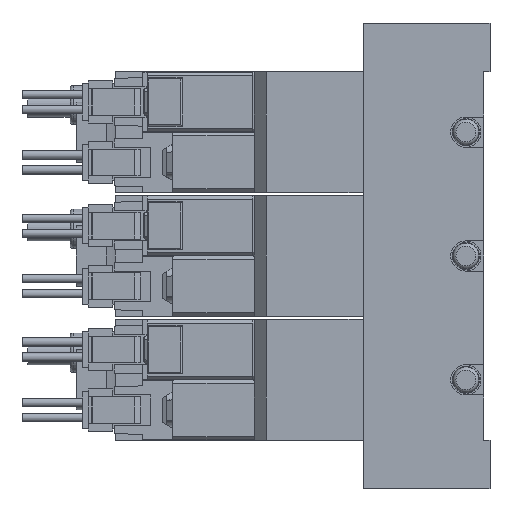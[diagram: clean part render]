
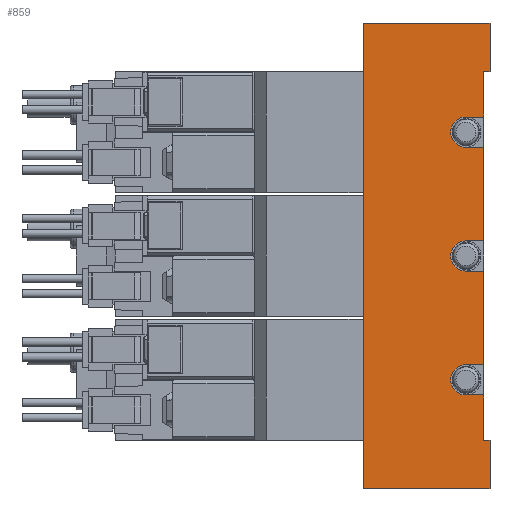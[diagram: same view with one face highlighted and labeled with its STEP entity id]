
A CAD part, left-side view. The second image highlights one B-rep face of the part: STEP entity #859.
In plain terms, the highlighted planar face has unit normal (-1, 0, 0) as drawn and (1, 0, 0) by its records, which use the part's own axes.
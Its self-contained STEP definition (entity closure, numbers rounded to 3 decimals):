
#859=ADVANCED_FACE('',(#1902),#1903,.F.);
#1902=FACE_OUTER_BOUND('',#2953,.T.);
#1903=PLANE('',#2954);
#2953=EDGE_LOOP('',(#6621,#6622,#6623,#6624,#6625,#6626,#6627,#6628,#6629,#6630,#6631,#6632,#6633,#6634,#6635,#6636,#6637,#6638,#6639,#6640));
#2954=AXIS2_PLACEMENT_3D('',#6641,#6642,#6643);
#6621=ORIENTED_EDGE('',*,*,#7823,.T.);
#6622=ORIENTED_EDGE('',*,*,#7804,.T.);
#6623=ORIENTED_EDGE('',*,*,#7826,.F.);
#6624=ORIENTED_EDGE('',*,*,#7795,.F.);
#6625=ORIENTED_EDGE('',*,*,#7779,.T.);
#6626=ORIENTED_EDGE('',*,*,#7732,.T.);
#6627=ORIENTED_EDGE('',*,*,#7818,.T.);
#6628=ORIENTED_EDGE('',*,*,#7752,.F.);
#6629=ORIENTED_EDGE('',*,*,#7709,.F.);
#6630=ORIENTED_EDGE('',*,*,#7801,.F.);
#6631=ORIENTED_EDGE('',*,*,#7816,.T.);
#6632=ORIENTED_EDGE('',*,*,#7831,.F.);
#6633=ORIENTED_EDGE('',*,*,#7749,.F.);
#6634=ORIENTED_EDGE('',*,*,#7832,.F.);
#6635=ORIENTED_EDGE('',*,*,#7812,.T.);
#6636=ORIENTED_EDGE('',*,*,#7797,.F.);
#6637=ORIENTED_EDGE('',*,*,#7703,.F.);
#6638=ORIENTED_EDGE('',*,*,#7715,.F.);
#6639=ORIENTED_EDGE('',*,*,#7810,.T.);
#6640=ORIENTED_EDGE('',*,*,#7830,.T.);
#6641=CARTESIAN_POINT('',(17.5,1.0,38.5));
#6642=DIRECTION('',(-1.0,0.0,0.0));
#6643=DIRECTION('',(0.0,0.0,1.0));
#7703=EDGE_CURVE('',#9550,#9552,#9553,.T.);
#7709=EDGE_CURVE('',#9562,#9564,#9565,.T.);
#7715=EDGE_CURVE('',#9574,#9550,#9575,.T.);
#7732=EDGE_CURVE('',#9608,#9605,#9609,.T.);
#7749=EDGE_CURVE('',#9637,#9639,#9640,.T.);
#7752=EDGE_CURVE('',#9564,#9644,#9645,.T.);
#7779=EDGE_CURVE('',#9691,#9608,#9692,.T.);
#7795=EDGE_CURVE('',#9691,#9717,#9718,.T.);
#7797=EDGE_CURVE('',#9552,#9720,#9721,.T.);
#7801=EDGE_CURVE('',#9727,#9562,#9728,.T.);
#7804=EDGE_CURVE('',#9732,#9733,#9734,.T.);
#7810=EDGE_CURVE('',#9574,#9741,#9743,.T.);
#7812=EDGE_CURVE('',#9745,#9720,#9746,.T.);
#7816=EDGE_CURVE('',#9727,#9751,#9753,.T.);
#7818=EDGE_CURVE('',#9605,#9644,#9755,.T.);
#7823=EDGE_CURVE('',#9763,#9732,#9764,.T.);
#7826=EDGE_CURVE('',#9717,#9733,#9768,.T.);
#7830=EDGE_CURVE('',#9741,#9763,#9772,.T.);
#7831=EDGE_CURVE('',#9639,#9751,#9773,.T.);
#7832=EDGE_CURVE('',#9745,#9637,#9774,.T.);
#9550=VERTEX_POINT('',#12582);
#9552=VERTEX_POINT('',#12585);
#9553=CIRCLE('',#12586,2.5);
#9562=VERTEX_POINT('',#12596);
#9564=VERTEX_POINT('',#12599);
#9565=CIRCLE('',#12600,2.5);
#9574=VERTEX_POINT('',#12610);
#9575=LINE('',#12611,#12612);
#9605=VERTEX_POINT('',#12733);
#9608=VERTEX_POINT('',#12737);
#9609=LINE('',#12738,#12739);
#9637=VERTEX_POINT('',#12778);
#9639=VERTEX_POINT('',#12781);
#9640=CIRCLE('',#12782,2.5);
#9644=VERTEX_POINT('',#12787);
#9645=LINE('',#12788,#12789);
#9691=VERTEX_POINT('',#12845);
#9692=LINE('',#12846,#12847);
#9717=VERTEX_POINT('',#12876);
#9718=LINE('',#12877,#12878);
#9720=VERTEX_POINT('',#12881);
#9721=LINE('',#12882,#12883);
#9727=VERTEX_POINT('',#12892);
#9728=LINE('',#12893,#12894);
#9732=VERTEX_POINT('',#12900);
#9733=VERTEX_POINT('',#12901);
#9734=LINE('',#12902,#12903);
#9741=VERTEX_POINT('',#12913);
#9743=LINE('',#12916,#12917);
#9745=VERTEX_POINT('',#12920);
#9746=LINE('',#12921,#12922);
#9751=VERTEX_POINT('',#12929);
#9753=LINE('',#12932,#12933);
#9755=LINE('',#12936,#12937);
#9763=VERTEX_POINT('',#12945);
#9764=LINE('',#12946,#12947);
#9768=LINE('',#12953,#12954);
#9772=LINE('',#12961,#12962);
#9773=LINE('',#12963,#12964);
#9774=LINE('',#12965,#12966);
#12582=CARTESIAN_POINT('',(17.5,4.0,-23.0));
#12585=CARTESIAN_POINT('',(17.5,4.0,-18.0));
#12586=AXIS2_PLACEMENT_3D('',#14230,#14231,#14232);
#12596=CARTESIAN_POINT('',(17.5,4.0,18.0));
#12599=CARTESIAN_POINT('',(17.5,4.0,23.0));
#12600=AXIS2_PLACEMENT_3D('',#14244,#14245,#14246);
#12610=CARTESIAN_POINT('',(17.5,1.0,-23.0));
#12611=CARTESIAN_POINT('',(17.5,1.0,-23.0));
#12612=VECTOR('',#14260,1.0);
#12733=CARTESIAN_POINT('',(17.5,1.0,30.5));
#12737=CARTESIAN_POINT('',(17.5,0.0,30.5));
#12738=CARTESIAN_POINT('',(17.5,0.0,30.5));
#12739=VECTOR('',#14295,1.0);
#12778=CARTESIAN_POINT('',(17.5,4.0,-2.5));
#12781=CARTESIAN_POINT('',(17.5,4.0,2.5));
#12782=AXIS2_PLACEMENT_3D('',#14317,#14318,#14319);
#12787=CARTESIAN_POINT('',(17.5,1.0,23.0));
#12788=CARTESIAN_POINT('',(17.5,1.0,23.0));
#12789=VECTOR('',#14324,1.0);
#12845=CARTESIAN_POINT('',(17.5,0.0,38.5));
#12846=CARTESIAN_POINT('',(17.5,0.0,38.5));
#12847=VECTOR('',#14380,1.0);
#12876=CARTESIAN_POINT('',(17.5,21.0,38.5));
#12877=CARTESIAN_POINT('',(17.5,1.0,38.5));
#12878=VECTOR('',#14415,1.0);
#12881=CARTESIAN_POINT('',(17.5,1.0,-18.0));
#12882=CARTESIAN_POINT('',(17.5,1.0,-18.0));
#12883=VECTOR('',#14417,1.0);
#12892=CARTESIAN_POINT('',(17.5,1.0,18.0));
#12893=CARTESIAN_POINT('',(17.5,1.0,18.0));
#12894=VECTOR('',#14421,1.0);
#12900=CARTESIAN_POINT('',(17.5,0.0,-38.5));
#12901=CARTESIAN_POINT('',(17.5,21.0,-38.5));
#12902=CARTESIAN_POINT('',(17.5,1.0,-38.5));
#12903=VECTOR('',#14424,1.0);
#12913=CARTESIAN_POINT('',(17.5,1.0,-30.5));
#12916=CARTESIAN_POINT('',(17.5,1.0,38.5));
#12917=VECTOR('',#14432,1.0);
#12920=CARTESIAN_POINT('',(17.5,1.0,-2.5));
#12921=CARTESIAN_POINT('',(17.5,1.0,38.5));
#12922=VECTOR('',#14434,1.0);
#12929=CARTESIAN_POINT('',(17.5,1.0,2.5));
#12932=CARTESIAN_POINT('',(17.5,1.0,38.5));
#12933=VECTOR('',#14438,1.0);
#12936=CARTESIAN_POINT('',(17.5,1.0,38.5));
#12937=VECTOR('',#14440,1.0);
#12945=CARTESIAN_POINT('',(17.5,0.0,-30.5));
#12946=CARTESIAN_POINT('',(17.5,0.0,-30.5));
#12947=VECTOR('',#14453,1.0);
#12953=CARTESIAN_POINT('',(17.5,21.0,38.5));
#12954=VECTOR('',#14456,1.0);
#12961=CARTESIAN_POINT('',(17.5,4.0,-30.5));
#12962=VECTOR('',#14460,1.0);
#12963=CARTESIAN_POINT('',(17.5,1.0,2.5));
#12964=VECTOR('',#14461,1.0);
#12965=CARTESIAN_POINT('',(17.5,1.0,-2.5));
#12966=VECTOR('',#14462,1.0);
#14230=CARTESIAN_POINT('',(17.5,4.0,-20.5));
#14231=DIRECTION('',(1.0,0.0,-0.0));
#14232=DIRECTION('',(0.0,0.0,1.0));
#14244=CARTESIAN_POINT('',(17.5,4.0,20.5));
#14245=DIRECTION('',(1.0,0.0,-0.0));
#14246=DIRECTION('',(0.0,0.0,1.0));
#14260=DIRECTION('',(0.0,1.0,0.0));
#14295=DIRECTION('',(0.0,1.0,0.0));
#14317=CARTESIAN_POINT('',(17.5,4.0,0.0));
#14318=DIRECTION('',(1.0,0.0,-0.0));
#14319=DIRECTION('',(0.0,0.0,1.0));
#14324=DIRECTION('',(0.0,-1.0,0.0));
#14380=DIRECTION('',(0.0,0.0,-1.0));
#14415=DIRECTION('',(0.0,1.0,0.0));
#14417=DIRECTION('',(0.0,-1.0,0.0));
#14421=DIRECTION('',(0.0,1.0,0.0));
#14424=DIRECTION('',(0.0,1.0,0.0));
#14432=DIRECTION('',(0.0,0.0,-1.0));
#14434=DIRECTION('',(0.0,0.0,-1.0));
#14438=DIRECTION('',(0.0,0.0,-1.0));
#14440=DIRECTION('',(0.0,0.0,-1.0));
#14453=DIRECTION('',(0.0,0.0,-1.0));
#14456=DIRECTION('',(0.0,0.0,-1.0));
#14460=DIRECTION('',(0.0,-1.0,0.0));
#14461=DIRECTION('',(0.0,-1.0,0.0));
#14462=DIRECTION('',(0.0,1.0,0.0));
